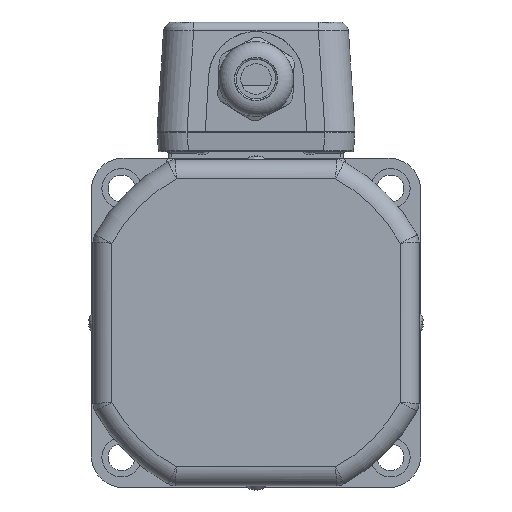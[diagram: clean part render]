
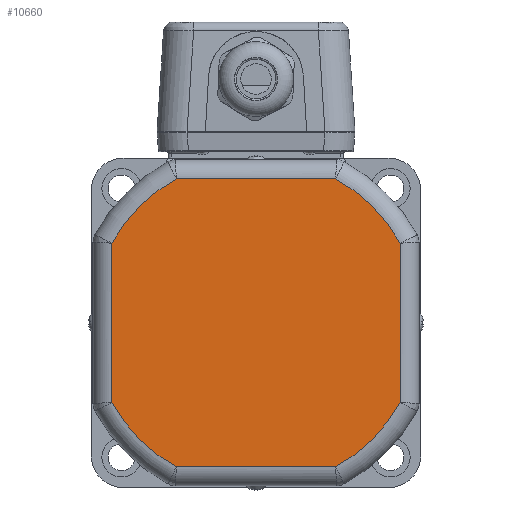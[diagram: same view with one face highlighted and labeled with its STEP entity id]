
A CAD part, left-side view. The second image highlights one B-rep face of the part: STEP entity #10660.
In plain terms, the highlighted planar face has unit normal (-1, 0, 0).
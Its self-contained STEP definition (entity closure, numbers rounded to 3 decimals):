
#9250=CARTESIAN_POINT('',(-20.,25.174,45.5));
#9251=VERTEX_POINT('',#9250);
#9301=CARTESIAN_POINT('',(-20.,45.5,25.174));
#9302=VERTEX_POINT('',#9301);
#9324=CARTESIAN_POINT('',(-20.,0.,0.));
#9325=DIRECTION('',(1.0,0.0,0.0));
#9326=DIRECTION('',(0.0,0.707,0.707));
#9327=AXIS2_PLACEMENT_3D('',#9324,#9325,#9326);
#9328=CIRCLE('',#9327,52.);
#9329=EDGE_CURVE('',#9302,#9251,#9328,.T.);
#9465=CARTESIAN_POINT('',(-20.,45.5,-25.174));
#9466=VERTEX_POINT('',#9465);
#9482=CARTESIAN_POINT('',(-20.,45.5,-25.174));
#9483=DIRECTION('',(0.0,0.0,1.0));
#9484=VECTOR('',#9483,50.349);
#9485=LINE('',#9482,#9484);
#9486=EDGE_CURVE('',#9466,#9302,#9485,.T.);
#9628=CARTESIAN_POINT('',(-20.,25.174,-45.5));
#9629=VERTEX_POINT('',#9628);
#9645=CARTESIAN_POINT('',(-20.,0.,0.));
#9646=DIRECTION('',(1.0,0.0,0.0));
#9647=DIRECTION('',(0.0,0.707,-0.707));
#9648=AXIS2_PLACEMENT_3D('',#9645,#9646,#9647);
#9649=CIRCLE('',#9648,52.);
#9650=EDGE_CURVE('',#9629,#9466,#9649,.T.);
#9780=CARTESIAN_POINT('',(-20.,-25.174,-45.5));
#9781=VERTEX_POINT('',#9780);
#9803=CARTESIAN_POINT('',(-20.,-25.174,-45.5));
#9804=DIRECTION('',(0.0,1.0,0.0));
#9805=VECTOR('',#9804,50.349);
#9806=LINE('',#9803,#9805);
#9807=EDGE_CURVE('',#9781,#9629,#9806,.T.);
#10016=CARTESIAN_POINT('',(-20.,-45.5,-25.174));
#10017=VERTEX_POINT('',#10016);
#10083=CARTESIAN_POINT('',(-20.,0.,0.));
#10084=DIRECTION('',(1.0,0.0,0.0));
#10085=DIRECTION('',(0.0,-0.707,-0.707));
#10086=AXIS2_PLACEMENT_3D('',#10083,#10084,#10085);
#10087=CIRCLE('',#10086,52.);
#10088=EDGE_CURVE('',#10017,#9781,#10087,.T.);
#10107=CARTESIAN_POINT('',(-20.,-45.5,25.174));
#10108=VERTEX_POINT('',#10107);
#10124=CARTESIAN_POINT('',(-20.,-45.5,25.174));
#10125=DIRECTION('',(0.0,0.0,-1.0));
#10126=VECTOR('',#10125,50.349);
#10127=LINE('',#10124,#10126);
#10128=EDGE_CURVE('',#10108,#10017,#10127,.T.);
#10247=CARTESIAN_POINT('',(-20.,-25.174,45.5));
#10248=VERTEX_POINT('',#10247);
#10263=CARTESIAN_POINT('',(-20.,0.,0.));
#10264=DIRECTION('',(1.0,0.0,0.0));
#10265=DIRECTION('',(0.0,-0.707,0.707));
#10266=AXIS2_PLACEMENT_3D('',#10263,#10264,#10265);
#10267=CIRCLE('',#10266,52.);
#10268=EDGE_CURVE('',#10248,#10108,#10267,.T.);
#10390=CARTESIAN_POINT('',(-20.,25.174,45.5));
#10391=DIRECTION('',(0.0,-1.0,0.0));
#10392=VECTOR('',#10391,50.349);
#10393=LINE('',#10390,#10392);
#10394=EDGE_CURVE('',#9251,#10248,#10393,.T.);
#10645=CARTESIAN_POINT('',(-20.,0.,0.));
#10646=DIRECTION('',(-1.0,0.0,0.0));
#10647=DIRECTION('',(0.0,0.0,1.0));
#10648=AXIS2_PLACEMENT_3D('',#10645,#10646,#10647);
#10649=PLANE('',#10648);
#10650=ORIENTED_EDGE('',*,*,#10394,.F.);
#10651=ORIENTED_EDGE('',*,*,#9329,.F.);
#10652=ORIENTED_EDGE('',*,*,#9486,.F.);
#10653=ORIENTED_EDGE('',*,*,#9650,.F.);
#10654=ORIENTED_EDGE('',*,*,#9807,.F.);
#10655=ORIENTED_EDGE('',*,*,#10088,.F.);
#10656=ORIENTED_EDGE('',*,*,#10128,.F.);
#10657=ORIENTED_EDGE('',*,*,#10268,.F.);
#10658=EDGE_LOOP('',(#10650,#10651,#10652,#10653,#10654,#10655,#10656,#10657));
#10659=FACE_OUTER_BOUND('',#10658,.T.);
#10660=ADVANCED_FACE('',(#10659),#10649,.T.);
